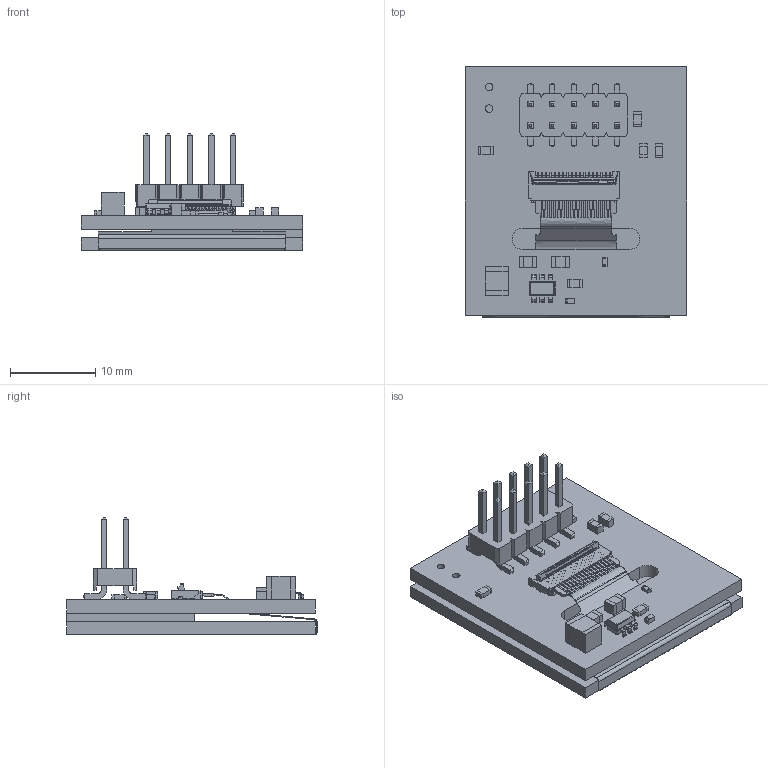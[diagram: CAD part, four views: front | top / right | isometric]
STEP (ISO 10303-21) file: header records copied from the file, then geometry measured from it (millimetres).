
FILE_DESCRIPTION (( 'STEP AP214' ), '1' );
FILE_NAME ('CFAF240240A3-013TN-E1.STEP', '2022-04-06T22:35:21', ( '' ), ( '' ), 'SwSTEP 2.0', 'SolidWorks 2021', '' );
FILE_SCHEMA (( 'AUTOMOTIVE_DESIGN' ));
Length unit declared in the file: millimetre
Products named in the file (67): Open CASCADE STEP translator 6.8 1.2.1; L1; C2; PCB; 6218942736; 6218947296; 6100xx21121_PIN; 61001021121; 6241788192; Extruded-10; 6241786672; 5034801800-subassembly-1; U1; Extruded-2; CFAF240240A3-013TN-E1; C5; 6241788432; 6241785552; R2; RFB1; C3; Terminal; R3; 5034801800-subassembly-1-Part-1; Board-Part-1; Extruded-6; Body; 6241785072; Extruded-11; JLCD; Extruded-4; Mark; C4; Extruded-7; Extruded-8; Extruded; 6241787872; Extruded-13; 61031021121; Extruded-5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
Assembly tree (92 placements, depth 6):
  CFAF240240A3-013TN-E1
    CFAF240240A3-013TN
    VHB_Tape_Short
    PCB
      U1
        6218942736
          Body
            Open CASCADE STEP translator 6.8 1.1.1
          Leader  x6
      C3
        6241787312  x2
          Extruded
        6241787472
          Extruded-1
      C2
        6241786672
          Extruded-2
        6241786912  x2
          Extruded-3
      L1
        6241788192
          Extruded-4
        6241788432  x2
          Extruded-5
      JHOST
        61031021121
          61001021121
          6100xx21121_PIN  x10
      JLCD
        5034801800
          5034801800-subassembly-1
            5034801800-subassembly-1-Part-1
            5034801800-subassembly-1-Part-2
          5034801800-subassembly-1-Part-2
      C4
        6241785872
          Extruded-6
        6241786112  x2
          Extruded-7
      C5
        6241785552  x2
          Extruded-8
        6241785712
          Extruded-9
      R2
        6241786512
          Extruded-10
        6241786352  x2
          Extruded-11
      R3
        6241787712  x2
          Extruded-12
        6241787872
          Extruded-13
      RFB1
        6241786352  x2
          Extruded-11
        6241786512
          Extruded-10
      D1
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Bounding box: 26 x 29.38 x 13.74 mm (x, y, z)
Volume: 2768.3 mm3; surface area: 5553.5 mm2
Topology: 55 solids, 55 shells, 3141 faces, 9147 edges, 5972 vertices
Faces by surface type: plane 2538, cylinder 571, bspline 18, sphere 8, cone 6
Entity records: 65636 total; most frequent: CARTESIAN_POINT 14160, ORIENTED_EDGE 10326, DIRECTION 8910, EDGE_CURVE 5163, VECTOR 3982, LINE 3982, VERTEX_POINT 3382, AXIS2_PLACEMENT_3D 2464
